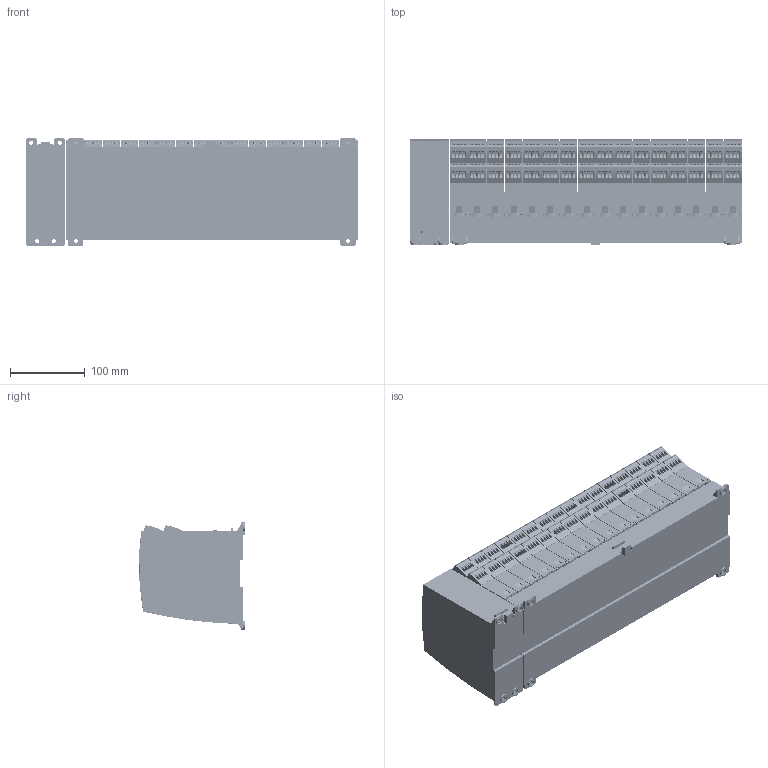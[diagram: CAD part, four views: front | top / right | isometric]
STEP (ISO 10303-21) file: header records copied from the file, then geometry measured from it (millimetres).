
FILE_DESCRIPTION (( 'STEP AP203' ), '1' );
FILE_NAME ('7916 backplane.STEP', '2017-10-04T09:14:08', ( '' ), ( '' ), 'SwSTEP 2.0', 'SolidWorks 2017', '' );
FILE_SCHEMA (( 'CONFIG_CONTROL_DESIGN' ));
Products named in the file (1): 7916 backplane
Bounding box: 443 x 141.7 x 144 mm (x, y, z)
Volume: 6692350 mm3; surface area: 927474.3 mm2
Topology: 50 solids, 50 shells, 10058 faces, 26862 edges, 17796 vertices
Faces by surface type: plane 7232, cylinder 2762, bspline 64
Entity records: 329885 total; most frequent: CARTESIAN_POINT 80607, ORIENTED_EDGE 53724, DIRECTION 48668, EDGE_CURVE 26862, LINE 19522, VECTOR 19522, VERTEX_POINT 17796, AXIS2_PLACEMENT_3D 14573
